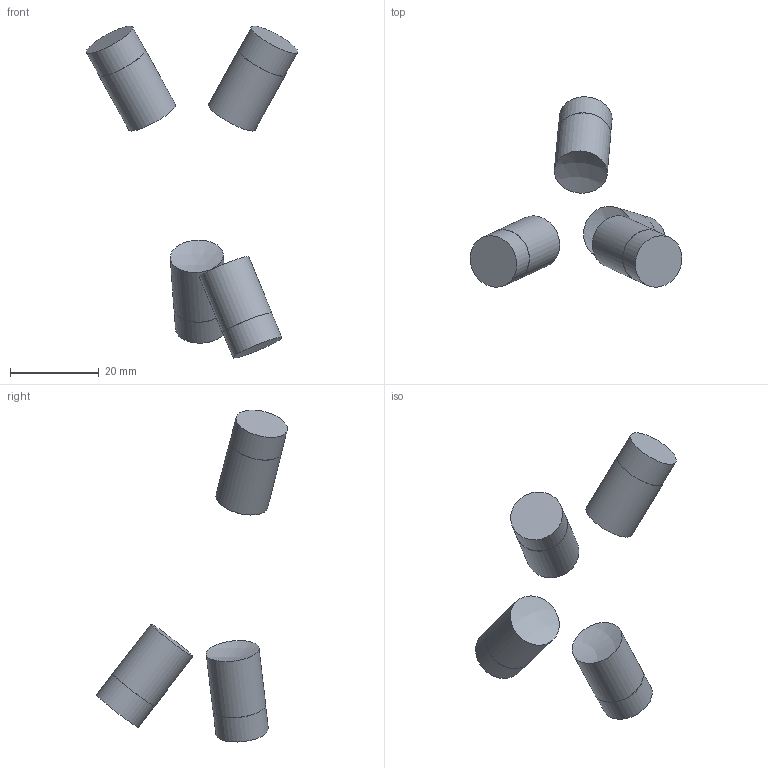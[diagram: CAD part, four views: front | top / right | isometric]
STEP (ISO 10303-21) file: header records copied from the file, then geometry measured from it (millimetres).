
FILE_DESCRIPTION(('Open CASCADE Model'),'2;1');
FILE_NAME('Open CASCADE Shape Model','2026-10-21T12:47:57',('Author'),( 'Open CASCADE'),'Open CASCADE STEP processor 7.9','Open CASCADE 7.9' ,'Unknown');
FILE_SCHEMA(('AUTOMOTIVE_DESIGN { 1 0 10303 214 1 1 1 1 }'));
Length unit declared in the file: millimetre
Products named in the file (1): Open CASCADE STEP translator 7.9 154
Bounding box: 47.77 x 43.09 x 74.95 mm (x, y, z)
Volume: 8902 mm3; surface area: 3960.3 mm2
Topology: 3 solids, 3 shells, 19 faces, 29 edges, 20 vertices
Faces by surface type: cylinder 8, plane 8, sphere 3
Full cylindrical faces by diameter (mm): 11.9 x4, 12 x4
Entity records: 1205 total; most frequent: CARTESIAN_POINT 501, DIRECTION 144, ORIENTED_EDGE 62, PCURVE 62, DEFINITIONAL_REPRESENTATION 62, LINE 50, VECTOR 50, AXIS2_PLACEMENT_3D 41
